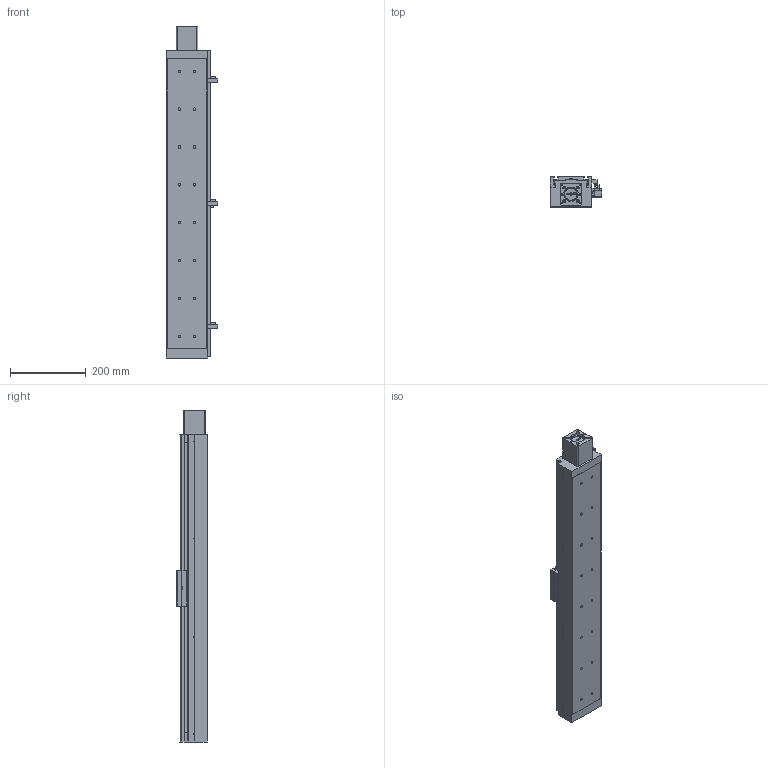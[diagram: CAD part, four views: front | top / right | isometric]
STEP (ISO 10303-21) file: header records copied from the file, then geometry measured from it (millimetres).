
FILE_DESCRIPTION((''),'2;1');
FILE_NAME('E:\libraries\UIA actuator library 2009\standard actuator\UIA110R12(15)DC\UIA110R12(15)DC-ball screw dia.16\UIA110R12(15)DC-_ _ _-R16_ _ step file 20Apr16\UIA110R12(15)DC-650-R16_ _-M23-P13-C10-S.stp','2016-04-20T17:07:25',('h029'),(''),'Autodesk Inventor 11','Autodesk Inventor 11','');
FILE_SCHEMA(('AUTOMOTIVE_DESIGN { 1 0 10303 214 1 1 1 1 }'));
Length unit declared in the file: millimetre
Products named in the file (10): UIA110R12(15)DC-650, ball screw dia.16; body, UIA110R12(15)DC-650,ball screw dia.16; Carriage, UIA110R12(15)DC; Sen Switch, UIA110R12(15)DC; sensor rail, UIA110R12(15)DC-650; SOH-32C; SOH-32C-3; SOH-32C-1; SOH-32C-2; M23 motor mount
Assembly tree (9 placements, depth 3):
  UIA110R12(15)DC-650, ball screw dia.16
    body, UIA110R12(15)DC-650,ball screw dia.16
    Carriage, UIA110R12(15)DC
    Sen Switch, UIA110R12(15)DC
    sensor rail, UIA110R12(15)DC-650
    SOH-32C
      SOH-32C-3
      SOH-32C-1
      SOH-32C-2
    M23 motor mount
Bounding box: 136.5 x 81 x 877 mm (x, y, z)
Volume: 6222539.9 mm3; surface area: 508016.7 mm2
Topology: 8 solids, 8 shells, 645 faces, 1728 edges, 1133 vertices
Faces by surface type: plane 411, cylinder 132, bspline 83, cone 19
Full cylindrical faces by diameter (mm): 2.459 x4, 3.242 x4, 4 x6, 4.5 x4, 5.5 x3, 6.35 x1, 6.5 x16, 7.5 x4, 8 x2, 9.5 x6, 10 x1, 10.5 x16, 21 x1, 32 x3, 37 x1, 38.1 x1, 42 x1, 42.01 x1, 43.5 x1
Entity records: 20580 total; most frequent: CARTESIAN_POINT 5187, DIRECTION 3095, ORIENTED_EDGE 2970, EDGE_CURVE 1485, VERTEX_POINT 1056, AXIS2_PLACEMENT_3D 1046, VECTOR 1003, LINE 1003
